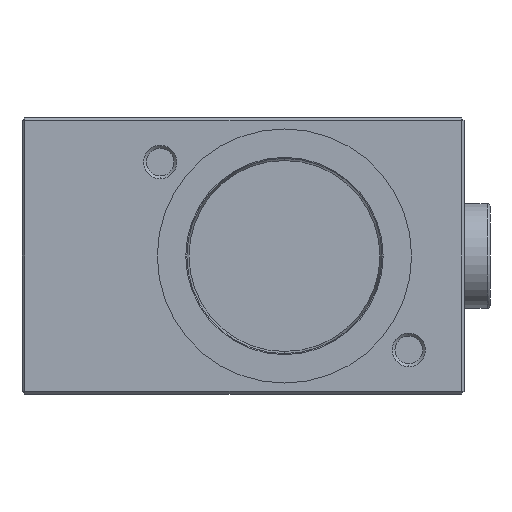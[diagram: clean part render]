
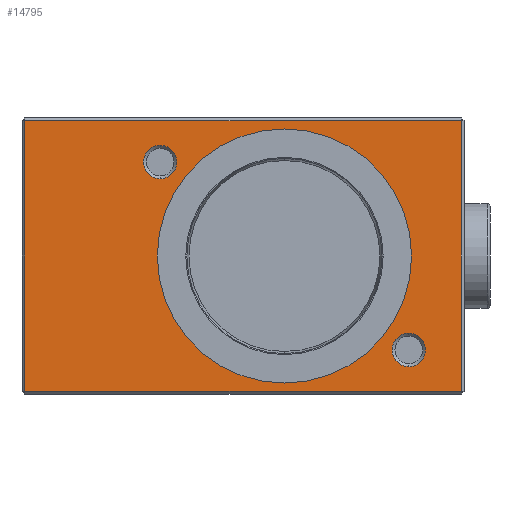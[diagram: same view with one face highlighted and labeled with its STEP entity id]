
A CAD part, left-side view. The second image highlights one B-rep face of the part: STEP entity #14795.
In plain terms, the highlighted planar face has unit normal (-1, 0, 0).
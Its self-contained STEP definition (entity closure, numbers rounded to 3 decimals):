
#436 = FACE_OUTER_BOUND ( 'NONE', #977, .T. ) ;
#909 = VECTOR ( 'NONE', #8441, 1000. ) ;
#977 = EDGE_LOOP ( 'NONE', ( #6673, #15654, #6378, #4304 ) ) ;
#1106 = DIRECTION ( 'NONE',  ( 0., 0., 1. ) ) ;
#1110 = DIRECTION ( 'NONE',  ( -1., 0., 0. ) ) ;
#1129 = CARTESIAN_POINT ( 'NONE',  ( 0., 15., 17. ) ) ;
#1301 = EDGE_LOOP ( 'NONE', ( #10721, #3172 ) ) ;
#1332 = EDGE_LOOP ( 'NONE', ( #1368, #15085 ) ) ;
#1368 = ORIENTED_EDGE ( 'NONE', *, *, #6025, .F. ) ;
#1480 = EDGE_LOOP ( 'NONE', ( #14239, #14101 ) ) ;
#1482 = CIRCLE ( 'NONE', #16298, 23. ) ;
#1703 = VERTEX_POINT ( 'NONE', #2658 ) ;
#2263 = VERTEX_POINT ( 'NONE', #16038 ) ;
#2498 = DIRECTION ( 'NONE',  ( 0., 0., 1. ) ) ;
#2505 = DIRECTION ( 'NONE',  ( -1., 0., 0. ) ) ;
#2519 = CARTESIAN_POINT ( 'NONE',  ( 0., -7.5, 0. ) ) ;
#2658 = CARTESIAN_POINT ( 'NONE',  ( 0., 39.5, -24.5 ) ) ;
#2739 = VERTEX_POINT ( 'NONE', #8165 ) ;
#3172 = ORIENTED_EDGE ( 'NONE', *, *, #7650, .F. ) ;
#3377 = EDGE_CURVE ( 'NONE', #2263, #14559, #16214, .T. ) ;
#3449 = CARTESIAN_POINT ( 'NONE',  ( 0., -39.5, 25. ) ) ;
#3470 = DIRECTION ( 'NONE',  ( 0., 0., 1. ) ) ;
#3509 = LINE ( 'NONE', #3449, #3747 ) ;
#3747 = VECTOR ( 'NONE', #3470, 1000. ) ;
#3905 = FACE_BOUND ( 'NONE', #1480, .T. ) ;
#4043 = CARTESIAN_POINT ( 'NONE',  ( 0., 39.5, 24.5 ) ) ;
#4304 = ORIENTED_EDGE ( 'NONE', *, *, #10210, .T. ) ;
#4594 = LINE ( 'NONE', #7771, #909 ) ;
#4659 = AXIS2_PLACEMENT_3D ( 'NONE', #5820, #5803, #5786 ) ;
#4693 = FACE_BOUND ( 'NONE', #1301, .T. ) ;
#5136 = VERTEX_POINT ( 'NONE', #7012 ) ;
#5378 = DIRECTION ( 'NONE',  ( 0., 0., 1. ) ) ;
#5411 = DIRECTION ( 'NONE',  ( -1., 0., 0. ) ) ;
#5414 = CARTESIAN_POINT ( 'NONE',  ( 0., -7.5, 0. ) ) ;
#5786 = DIRECTION ( 'NONE',  ( 0., 0., 1. ) ) ;
#5803 = DIRECTION ( 'NONE',  ( -1., 0., 0. ) ) ;
#5820 = CARTESIAN_POINT ( 'NONE',  ( 0., -30., -17. ) ) ;
#5976 = EDGE_CURVE ( 'NONE', #9962, #2739, #7481, .T. ) ;
#6025 = EDGE_CURVE ( 'NONE', #5136, #14406, #6454, .T. ) ;
#6108 = VERTEX_POINT ( 'NONE', #14384 ) ;
#6378 = ORIENTED_EDGE ( 'NONE', *, *, #15238, .T. ) ;
#6454 = CIRCLE ( 'NONE', #16024, 3.025 ) ;
#6554 = CIRCLE ( 'NONE', #9304, 3.025 ) ;
#6673 = ORIENTED_EDGE ( 'NONE', *, *, #8649, .T. ) ;
#7012 = CARTESIAN_POINT ( 'NONE',  ( 0., -30., -13.975 ) ) ;
#7324 = EDGE_CURVE ( 'NONE', #8523, #6108, #3509, .T. ) ;
#7481 = CIRCLE ( 'NONE', #16254, 3.025 ) ;
#7650 = EDGE_CURVE ( 'NONE', #2739, #9962, #6554, .T. ) ;
#7671 = DIRECTION ( 'NONE',  ( 0., 1., 0. ) ) ;
#7771 = CARTESIAN_POINT ( 'NONE',  ( 0., -40., -24.5 ) ) ;
#7885 = CARTESIAN_POINT ( 'NONE',  ( 0., 40., 24.5 ) ) ;
#8112 = VECTOR ( 'NONE', #8603, 1000. ) ;
#8125 = LINE ( 'NONE', #8746, #8112 ) ;
#8165 = CARTESIAN_POINT ( 'NONE',  ( 0., 15., 13.975 ) ) ;
#8441 = DIRECTION ( 'NONE',  ( 0., -1., 0. ) ) ;
#8523 = VERTEX_POINT ( 'NONE', #9322 ) ;
#8603 = DIRECTION ( 'NONE',  ( 0., 0., -1. ) ) ;
#8649 = EDGE_CURVE ( 'NONE', #1703, #8523, #4594, .T. ) ;
#8746 = CARTESIAN_POINT ( 'NONE',  ( 0., 39.5, -25. ) ) ;
#8838 = EDGE_CURVE ( 'NONE', #14406, #5136, #15530, .T. ) ;
#8883 = AXIS2_PLACEMENT_3D ( 'NONE', #10691, #10660, #10639 ) ;
#9304 = AXIS2_PLACEMENT_3D ( 'NONE', #1129, #1110, #1106 ) ;
#9322 = CARTESIAN_POINT ( 'NONE',  ( 0., -39.5, -24.5 ) ) ;
#9962 = VERTEX_POINT ( 'NONE', #12517 ) ;
#10210 = EDGE_CURVE ( 'NONE', #15677, #1703, #8125, .T. ) ;
#10526 = EDGE_CURVE ( 'NONE', #14559, #2263, #1482, .T. ) ;
#10639 = DIRECTION ( 'NONE',  ( 0., 0., 1. ) ) ;
#10660 = DIRECTION ( 'NONE',  ( -1., 0., 0. ) ) ;
#10691 = CARTESIAN_POINT ( 'NONE',  ( 0., 40., -25. ) ) ;
#10712 = FACE_BOUND ( 'NONE', #1332, .T. ) ;
#10721 = ORIENTED_EDGE ( 'NONE', *, *, #5976, .F. ) ;
#10948 = PLANE ( 'NONE',  #8883 ) ;
#12517 = CARTESIAN_POINT ( 'NONE',  ( 0., 15., 20.025 ) ) ;
#13257 = CARTESIAN_POINT ( 'NONE',  ( 0., -7.5, -23. ) ) ;
#14101 = ORIENTED_EDGE ( 'NONE', *, *, #10526, .F. ) ;
#14239 = ORIENTED_EDGE ( 'NONE', *, *, #3377, .F. ) ;
#14370 = CARTESIAN_POINT ( 'NONE',  ( 0., -30., -20.025 ) ) ;
#14384 = CARTESIAN_POINT ( 'NONE',  ( 0., -39.5, 24.5 ) ) ;
#14406 = VERTEX_POINT ( 'NONE', #14370 ) ;
#14551 = LINE ( 'NONE', #7885, #15761 ) ;
#14559 = VERTEX_POINT ( 'NONE', #13257 ) ;
#14795 = ADVANCED_FACE ( 'NONE', ( #436, #4693, #10712, #3905 ), #10948, .T. ) ;
#14855 = AXIS2_PLACEMENT_3D ( 'NONE', #2519, #2505, #2498 ) ;
#14892 = DIRECTION ( 'NONE',  ( 0., 0., 1. ) ) ;
#14905 = DIRECTION ( 'NONE',  ( -1., 0., 0. ) ) ;
#14926 = CARTESIAN_POINT ( 'NONE',  ( 0., -30., -17. ) ) ;
#15085 = ORIENTED_EDGE ( 'NONE', *, *, #8838, .F. ) ;
#15238 = EDGE_CURVE ( 'NONE', #6108, #15677, #14551, .T. ) ;
#15405 = DIRECTION ( 'NONE',  ( 0., 0., 1. ) ) ;
#15423 = DIRECTION ( 'NONE',  ( -1., 0., 0. ) ) ;
#15442 = CARTESIAN_POINT ( 'NONE',  ( 0., 15., 17. ) ) ;
#15530 = CIRCLE ( 'NONE', #4659, 3.025 ) ;
#15654 = ORIENTED_EDGE ( 'NONE', *, *, #7324, .T. ) ;
#15677 = VERTEX_POINT ( 'NONE', #4043 ) ;
#15761 = VECTOR ( 'NONE', #7671, 1000. ) ;
#16024 = AXIS2_PLACEMENT_3D ( 'NONE', #14926, #14905, #14892 ) ;
#16038 = CARTESIAN_POINT ( 'NONE',  ( 0., -7.5, 23. ) ) ;
#16214 = CIRCLE ( 'NONE', #14855, 23. ) ;
#16254 = AXIS2_PLACEMENT_3D ( 'NONE', #15442, #15423, #15405 ) ;
#16298 = AXIS2_PLACEMENT_3D ( 'NONE', #5414, #5411, #5378 ) ;
